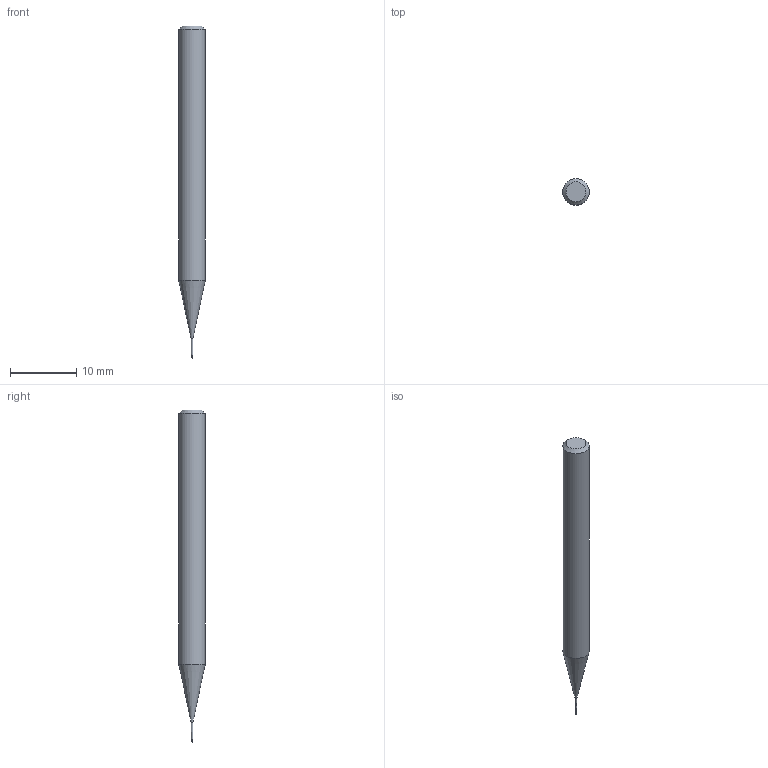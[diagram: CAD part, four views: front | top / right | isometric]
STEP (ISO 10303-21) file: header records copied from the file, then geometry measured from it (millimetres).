
FILE_DESCRIPTION((''),'2;1');
FILE_NAME('C:\Users\nsx150\AppData\Local\Temp\Mastercam 2021\SNAKH10GOD\TEMP.step','2021-10-21T13:30:34',(''),(''),'STEP Write','Mastercam 2021 ... CNC Software, Inc.','');
FILE_SCHEMA(('AUTOMOTIVE_DESIGN'));
Length unit declared in the file: millimetre
Products named in the file (1): None
Bounding box: 4 x 4 x 50 mm (x, y, z)
Volume: 519 mm3; surface area: 551.9 mm2
Topology: 2 solids, 2 shells, 10 faces, 16 edges, 9 vertices
Faces by surface type: plane 3, cylinder 3, cone 3, sphere 1
Full cylindrical faces by diameter (mm): 0.195 x1, 0.2 x1, 4 x1
Entity records: 232 total; most frequent: DIRECTION 40, CARTESIAN_POINT 28, AXIS2_PLACEMENT_3D 20, ORIENTED_EDGE 16, EDGE_LOOP 16, STYLED_ITEM 13, ADVANCED_FACE 10, FACE_BOUND 9
